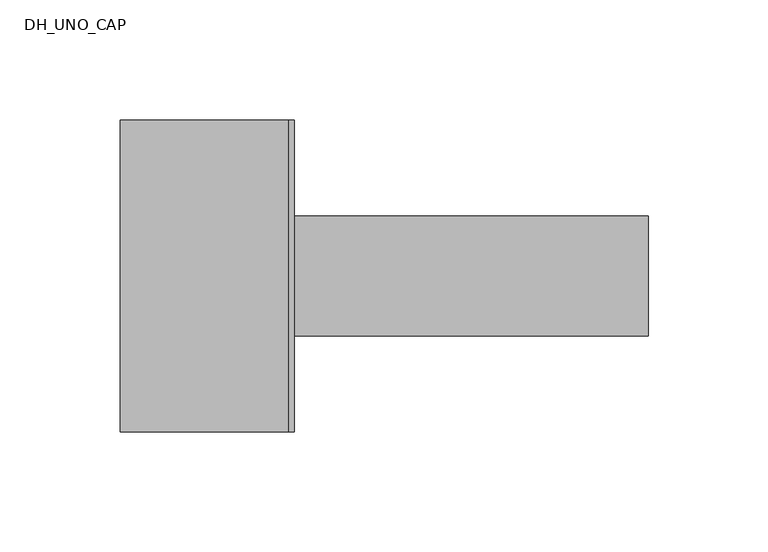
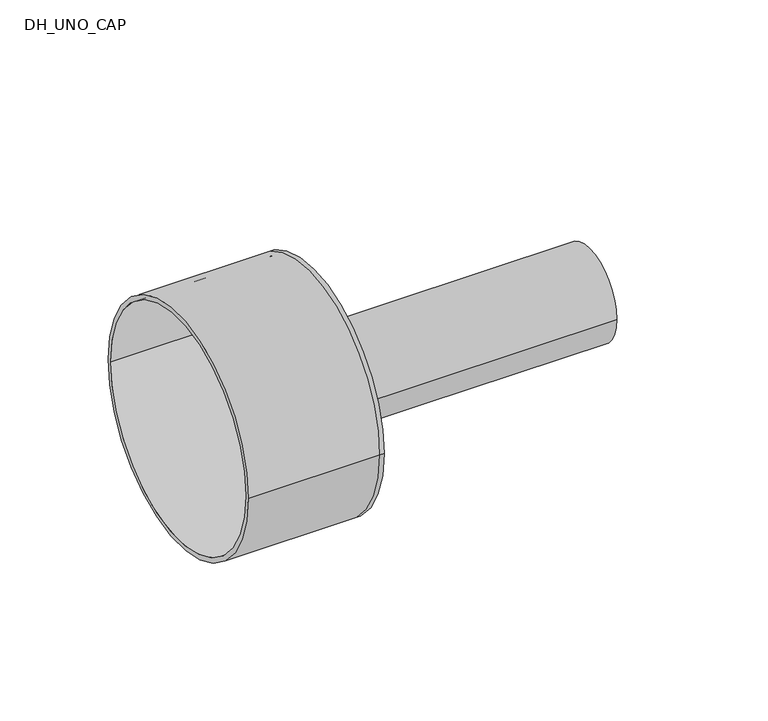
"""IFC4 building model written with IfcOpenShell, lengths in millimetres: pipe fitting geometry, DH_UNO_CAP : RAUVIPEX UNO 11 Heating - Solid Cap."""

import ifcopenshell
import ifcopenshell.guid

model = None  # the IFC model being written
_history = None  # IfcOwnerHistory: only IFC2X3 demands one
_inside = {}  # id of a spatial element -> (the spatial element, [elements in it])
_under = {}  # id of a project, library or spatial element -> (it, [spatial elements below it])
_declared = {}  # id of a project -> (the project, [libraries it declares])
_typed = {}  # id of a type object -> (the type object, [elements of that type])
_made_of = {}  # id of a material, layer set ... -> (it, [elements and type objects made of it])


def new_model(schema):
    """Start an empty IFC model of exactly this schema.

    Asked for "IFC4X3", IfcOpenShell would pick the latest addendum, in which some entities
    have other attributes; the version numbers below select the first issue.
    IFC2X3 requires an IfcOwnerHistory on every rooted entity: one is made here for all.
    """
    global model, _history
    if schema == "IFC4X3":
        model = ifcopenshell.file(schema_version=(4, 3, 0, 0))
    else:
        model = ifcopenshell.file(schema=schema)
    _inside.clear()
    _under.clear()
    _declared.clear()
    _typed.clear()
    _made_of.clear()
    _history = None
    if model.schema == "IFC2X3":
        org = make("IfcOrganization", Name="unknown")
        user = make(
            "IfcPersonAndOrganization",
            ThePerson=make("IfcPerson", FamilyName="unknown"),
            TheOrganization=org,
        )
        app = make(
            "IfcApplication",
            ApplicationDeveloper=org,
            Version="unknown",
            ApplicationFullName="unknown",
            ApplicationIdentifier="unknown",
        )
        _history = make(
            "IfcOwnerHistory",
            OwningUser=user,
            OwningApplication=app,
            ChangeAction="ADDED",
            CreationDate=0,
        )
    return model


def make(cls, **values):
    """One entity of the class cls with the attributes given. An attribute that is None is left unset."""
    return model.create_entity(
        cls, **{name: value for name, value in values.items() if value is not None}
    )


def rooted(cls, **values):
    """An entity with a GlobalId (a new one), such as an element, a storey or a relation."""
    return make(cls, GlobalId=ifcopenshell.guid.new(), OwnerHistory=_history, **values)


def si_unit(unit_type, name, prefix=None):
    """IfcSIUnit, for example si_unit("LENGTHUNIT", "METRE", prefix="MILLI")."""
    return make("IfcSIUnit", UnitType=unit_type, Prefix=prefix, Name=name)


def assignment(units):
    """IfcUnitAssignment: the units of a project."""
    return None if units is None else make("IfcUnitAssignment", Units=units)


def point(xyz):
    """IfcCartesianPoint."""
    return None if xyz is None else make("IfcCartesianPoint", Coordinates=xyz)


def direction(xyz):
    """IfcDirection."""
    return None if xyz is None else make("IfcDirection", DirectionRatios=xyz)


def frame(location, z_axis=None, x_axis=None):
    """IfcAxis2Placement3D, a coordinate frame: its origin and axes. An axis left out is left unset."""
    return make(
        "IfcAxis2Placement3D",
        Location=point(location),
        Axis=direction(z_axis),
        RefDirection=direction(x_axis),
    )


def frame_2d(location, x_axis=None):
    """IfcAxis2Placement2D, a coordinate frame in the plane: its origin and x axis."""
    return make(
        "IfcAxis2Placement2D", Location=point(location), RefDirection=direction(x_axis)
    )


def origin():
    """The frame at (0, 0, 0) with its axes left unset."""
    return frame((0.0, 0.0, 0.0))


def origin_2d():
    """The frame at (0, 0) in the plane with its x axis left unset."""
    return frame_2d((0.0, 0.0))


def place(relative_to, where):
    """IfcLocalPlacement: puts the frame where relative to a parent placement (None: the world)."""
    return make(
        "IfcLocalPlacement", PlacementRelTo=relative_to, RelativePlacement=where
    )


def context(
    kind, dimensions, precision=None, world=None, true_north=None, identifier=None
):
    """IfcGeometricRepresentationContext, for example the 3D "Model" context."""
    return make(
        "IfcGeometricRepresentationContext",
        ContextIdentifier=identifier,
        ContextType=kind,
        CoordinateSpaceDimension=dimensions,
        Precision=precision,
        WorldCoordinateSystem=world,
        TrueNorth=true_north,
    )


def project(units=None, contexts=None):
    """IfcProject with its units and contexts."""
    return rooted(
        "IfcProject",
        Name="project",
        RepresentationContexts=contexts,
        UnitsInContext=assignment(units),
    )


def spatial(cls, under=None, at=None, **own):
    """A site, building, storey or space (cls), placed at a placement, below another one or the project."""
    s = rooted(cls, ObjectPlacement=at, **own)
    if under is not None:
        _under.setdefault(under.id(), (under, []))[1].append(s)
    return s


def polyline(points):
    """IfcPolyline through the points."""
    return make("IfcPolyline", Points=[point(p) for p in points])


def circle_curve(where, radius):
    """IfcCircle in the frame where."""
    return make("IfcCircle", Position=where, Radius=radius)


def trimmed(basis, trim1, trim2, sense, master):
    """IfcTrimmedCurve: the piece of a basis curve between two trims."""
    return make(
        "IfcTrimmedCurve",
        BasisCurve=basis,
        Trim1=trim1,
        Trim2=trim2,
        SenseAgreement=sense,
        MasterRepresentation=master,
    )


def segment(curve, same_sense, transition):
    """IfcCompositeCurveSegment."""
    return make(
        "IfcCompositeCurveSegment",
        Transition=transition,
        SameSense=same_sense,
        ParentCurve=curve,
    )


def composite_curve(segments, self_intersect=None):
    """IfcCompositeCurve: segments joined end to end."""
    return make("IfcCompositeCurve", Segments=segments, SelfIntersect=self_intersect)


def outline(outer, holes=None, kind="AREA"):
    """IfcArbitraryClosedProfileDef: a profile drawn as a closed curve; with holes, ...WithVoids."""
    if holes is None:
        return make("IfcArbitraryClosedProfileDef", ProfileType=kind, OuterCurve=outer)
    return make(
        "IfcArbitraryProfileDefWithVoids",
        ProfileType=kind,
        OuterCurve=outer,
        InnerCurves=holes,
    )


def extrude(swept, where, along, depth):
    """IfcExtrudedAreaSolid: the profile swept, set in the frame where, extruded along a direction by depth."""
    return make(
        "IfcExtrudedAreaSolid",
        SweptArea=swept,
        Position=where,
        ExtrudedDirection=direction(along),
        Depth=depth,
    )


def shape(context_of_items, identifier, shape_type, items):
    """IfcShapeRepresentation: the items that make up one representation, for example the "Body"."""
    return make(
        "IfcShapeRepresentation",
        ContextOfItems=context_of_items,
        RepresentationIdentifier=identifier,
        RepresentationType=shape_type,
        Items=items,
    )


def source(mapping_origin, context_of_items, identifier, shape_type, items):
    """IfcRepresentationMap: a shape defined once, which mapped items show again and again."""
    return make(
        "IfcRepresentationMap",
        MappingOrigin=mapping_origin,
        MappedRepresentation=shape(context_of_items, identifier, shape_type, items),
    )


def transform(
    local_origin,
    x_axis=None,
    y_axis=None,
    z_axis=None,
    scale=None,
    scale2=None,
    scale3=None,
    uniform=True,
):
    """IfcCartesianTransformationOperator3D, or its non-uniform kind. x_axis, y_axis, z_axis: its Axis1, 2, 3."""
    if uniform:
        return make(
            "IfcCartesianTransformationOperator3D",
            Axis1=direction(x_axis),
            Axis2=direction(y_axis),
            LocalOrigin=point(local_origin),
            Scale=scale,
            Axis3=direction(z_axis),
        )
    return make(
        "IfcCartesianTransformationOperator3DnonUniform",
        Axis1=direction(x_axis),
        Axis2=direction(y_axis),
        LocalOrigin=point(local_origin),
        Scale=scale,
        Axis3=direction(z_axis),
        Scale2=scale2,
        Scale3=scale3,
    )


def mapped(mapping_source, mapping_target):
    """IfcMappedItem: shows the shape of a source again, moved by a transform."""
    return make(
        "IfcMappedItem", MappingSource=mapping_source, MappingTarget=mapping_target
    )


def made_of(thing, what):
    """Note that an element or type object is made of a material, layer set ...; save() writes the relation."""
    if what is not None:
        _made_of.setdefault(what.id(), (what, []))[1].append(thing)
    return thing


def element(
    cls,
    number,
    at=None,
    inside=None,
    cuts=None,
    type_object=None,
    material=None,
    context=None,
    identifier="Body",
    shape_type=None,
    held_by="IfcProductDefinitionShape",
    body=None,
    shapes=None,
    **own,
):
    """One element of the class cls, such as IfcWall. Its Tag is "e" and its number.

    at: its placement. inside: the storey or other place that contains it. cuts: it is an
    opening in that element (IfcRelVoidsElement). A single representation is given by context,
    identifier, shape_type and body (its items); several are given by shapes. held_by: the class
    of the entity that holds the representations. save() writes the other relations.
    """
    e = rooted(cls, Tag="e%d" % number, ObjectPlacement=at, **own)
    if body is not None:
        shapes = [shape(context, identifier, shape_type, body)]
    if shapes is not None:
        e.Representation = make(held_by, Representations=shapes)
    if inside is not None:
        _inside.setdefault(inside.id(), (inside, []))[1].append(e)
    if cuts is not None:
        rooted(
            "IfcRelVoidsElement", RelatingBuildingElement=cuts, RelatedOpeningElement=e
        )
    if type_object is not None:
        _typed.setdefault(type_object.id(), (type_object, []))[1].append(e)
    return made_of(e, material)


def aggregate(whole, parts):
    """IfcRelAggregates: a whole, such as a stair, and the parts it consists of."""
    return rooted("IfcRelAggregates", RelatingObject=whole, RelatedObjects=parts)


def save(model, path):
    """Write the relations noted so far, then the file.

    IfcRelAggregates (storeys below a building ...), IfcRelContainedInSpatialStructure (elements
    in a storey), IfcRelDefinesByType, IfcRelAssociatesMaterial and IfcRelDeclares: one each for
    every whole, place, type object, material and project.
    """
    for whole, parts in _under.values():
        aggregate(whole, parts)
    for where, things in _inside.values():
        rooted(
            "IfcRelContainedInSpatialStructure",
            RelatedElements=things,
            RelatingStructure=where,
        )
    for kind, things in _typed.values():
        rooted("IfcRelDefinesByType", RelatedObjects=things, RelatingType=kind)
    for what, things in _made_of.values():
        rooted("IfcRelAssociatesMaterial", RelatedObjects=things, RelatingMaterial=what)
    for by, libraries in _declared.values():
        rooted("IfcRelDeclares", RelatingContext=by, RelatedDefinitions=libraries)
    model.write(path)


def plane_surface(at):
    """IfcPlane: the flat surface through the origin of the frame at, square to its z axis."""
    return make("IfcPlane", Position=at)


def cylinder_surface(at, radius):
    """IfcCylindricalSurface: all points at the distance radius from the z axis of the frame at."""
    return make("IfcCylindricalSurface", Position=at, Radius=radius)


def revolved_surface(curve, axis_point, axis_direction):
    """IfcSurfaceOfRevolution: the curve turned about the line through axis_point along axis_direction."""
    return make(
        "IfcSurfaceOfRevolution",
        SweptCurve=make("IfcArbitraryOpenProfileDef", ProfileType="CURVE", Curve=curve),
        AxisPosition=make("IfcAxis1Placement", Location=point(axis_point), Axis=direction(axis_direction)),
    )


def advanced_brep(points, edges, surfaces, faces):
    """IfcAdvancedBrep: a solid bounded by faces that lie on surfaces and meet in shared edges.

    An edge is (start, end): straight between two places in points (the first is 0);
    or (start, end, curve); or (start, end, curve, False) where it runs against its curve.
    A face is (place in surfaces, loops), or (place, loops, False) where it looks against
    its surface's normal. A loop lists edges by number (the first is 1), with a minus sign
    where the edge is run from its end to its start. The first loop is the outer one.
    """
    corners = [point(p) for p in points]
    vertices = [make("IfcVertexPoint", VertexGeometry=c) for c in corners]
    made = []
    for start, end, *more in edges:
        made.append(
            make(
                "IfcEdgeCurve",
                EdgeStart=vertices[start],
                EdgeEnd=vertices[end],
                EdgeGeometry=more[0] if more else make("IfcPolyline", Points=[corners[start], corners[end]]),
                SameSense=more[1] if len(more) > 1 else True,
            )
        )
    hull = []
    for where, loops, *sense in faces:
        bounds = []
        for j, loop in enumerate(loops):
            ring = [make("IfcOrientedEdge", EdgeElement=made[abs(k) - 1], Orientation=k > 0) for k in loop]
            bounds.append(
                make(
                    "IfcFaceOuterBound" if j == 0 else "IfcFaceBound",
                    Bound=make("IfcEdgeLoop", EdgeList=ring),
                    Orientation=True,
                )
            )
        hull.append(make("IfcAdvancedFace", Bounds=bounds, FaceSurface=surfaces[where], SameSense=sense[0] if sense else True))
    return make("IfcAdvancedBrep", Outer=make("IfcClosedShell", CfsFaces=hull))


def dh_uno_cap_38107208(model_context):
    return source(origin(), model_context, "Body", "SolidModel", [
        extrude(outline(composite_curve([segment(trimmed(circle_curve(origin_2d(), 25.0), [point((-25.0, 0.0))], [point((25.0, 0.0))], False, "CARTESIAN"), True, "CONTINUOUS"), segment(trimmed(circle_curve(origin_2d(), 25.0), [point((25.0, 0.0))], [point((-25.0, 0.0))], False, "CARTESIAN"), True, "CONTINUOUS")], self_intersect=False), holes=[composite_curve([segment(trimmed(circle_curve(origin_2d(), 20.4), [point((-20.4, 0.0))], [point((20.4, 0.0))], True, "CARTESIAN"), True, "CONTINUOUS"), segment(trimmed(circle_curve(origin_2d(), 20.4), [point((20.4, 0.0))], [point((-20.4, 0.0))], True, "CARTESIAN"), True, "CONTINUOUS")], self_intersect=False)]), frame((0.0, 0.0, 0.0), z_axis=(1.0, 0.0, 0.0), x_axis=(0.0, 1.0, 0.0)), (0.0, 0.0, 1.0), 150.0),
        advanced_brep(
        [(-70.0, -65.0, 0.0), (-70.0, 65.0, 0.0), (-70.0, -62.5, 0.0), (-70.0, 62.5, 0.0), (0.0, -62.5, 0.0), (0.0, 62.5, 0.0), (0.0, -65.0, 0.0), (0.0, 65.0, 0.0), (0.0, 25.0, 0.0), (0.0, -25.0, 0.0), (2.5, -65.0, 0.0), (2.5, 65.0, 0.0), (2.5, -25.0, 0.0), (2.5, 25.0, 0.0)],
        [
            (0, 1, circle_curve(frame((-70.0, 0.0, 0.0), z_axis=(-1.0, 0.0, 0.0), x_axis=(0.0, 1.0, 0.0)), 65.0)),
            (1, 0, circle_curve(frame((-70.0, 0.0, 0.0), z_axis=(-1.0, 0.0, 0.0), x_axis=(0.0, 1.0, 0.0)), 65.0)),
            (2, 3, circle_curve(frame((-70.0, 0.0, 0.0), z_axis=(1.0, 0.0, 0.0), x_axis=(0.0, 1.0, 0.0)), 62.5)),
            (3, 2, circle_curve(frame((-70.0, 0.0, 0.0), z_axis=(1.0, 0.0, 0.0), x_axis=(0.0, 1.0, 0.0)), 62.5)),
            (2, 4),
            (4, 5, circle_curve(frame((0.0, 0.0, 0.0), z_axis=(1.0, 0.0, 0.0), x_axis=(0.0, 1.0, 0.0)), 62.5)),
            (5, 3),
            (5, 4, circle_curve(frame((0.0, 0.0, 0.0), z_axis=(1.0, 0.0, 0.0), x_axis=(0.0, 1.0, 0.0)), 62.5)),
            (0, 6),
            (6, 7, circle_curve(frame((0.0, 0.0, 0.0), z_axis=(-1.0, 0.0, 0.0), x_axis=(0.0, 1.0, 0.0)), 65.0)),
            (7, 1),
            (7, 6, circle_curve(frame((0.0, 0.0, 0.0), z_axis=(-1.0, 0.0, 0.0), x_axis=(0.0, 1.0, 0.0)), 65.0)),
            (8, 9, circle_curve(frame((0.0, 0.0, 0.0), z_axis=(1.0, 0.0, 0.0), x_axis=(0.0, 1.0, 0.0)), 25.0)),
            (9, 8, circle_curve(frame((0.0, 0.0, 0.0), z_axis=(1.0, 0.0, 0.0), x_axis=(0.0, 1.0, 0.0)), 25.0)),
            (10, 11, circle_curve(frame((2.5, 0.0, 0.0), z_axis=(1.0, 0.0, 0.0), x_axis=(0.0, 1.0, 0.0)), 65.0)),
            (11, 10, circle_curve(frame((2.5, 0.0, 0.0), z_axis=(1.0, 0.0, 0.0), x_axis=(0.0, 1.0, 0.0)), 65.0)),
            (12, 13, circle_curve(frame((2.5, 0.0, 0.0), z_axis=(-1.0, 0.0, 0.0), x_axis=(0.0, 1.0, 0.0)), 25.0)),
            (13, 12, circle_curve(frame((2.5, 0.0, 0.0), z_axis=(-1.0, 0.0, 0.0), x_axis=(0.0, 1.0, 0.0)), 25.0)),
            (11, 7),
            (6, 10),
            (8, 13),
            (12, 9),
        ],
        [
            plane_surface(frame((-70.0, 0.0, 0.0), z_axis=(-1.0, 0.0, 0.0), x_axis=(0.0, 0.0, 1.0))),
            revolved_surface(polyline([(0.0, 62.5, 0.0), (-70.0, 62.5, 0.0)]), (-70.0, 0.0, 0.0), (1.0, 0.0, 0.0)),
            cylinder_surface(frame((-70.0, 0.0, 0.0), z_axis=(-1.0, 0.0, 0.0), x_axis=(0.0, 1.0, 0.0)), 65.0),
            plane_surface(frame((0.0, 0.0, 0.0), z_axis=(-1.0, 0.0, 0.0), x_axis=(0.0, 0.0, 1.0))),
            plane_surface(frame((2.5, 0.0, 0.0), z_axis=(1.0, 0.0, 0.0), x_axis=(0.0, 0.0, 1.0))),
            cylinder_surface(frame((0.0, 0.0, 0.0), z_axis=(-1.0, 0.0, 0.0), x_axis=(0.0, 1.0, 0.0)), 65.0),
            revolved_surface(polyline([(0.0, 25.0, 0.0), (2.5, 25.0, 0.0)]), (0.0, 0.0, 0.0), (-1.0, 0.0, 0.0)),
        ],
        [
            (0, [[1, 2], [3, 4]]),
            (1, [[-3, 5, 6, 7]]),
            (1, [[-4, -7, 8, -5]]),
            (2, [[-1, 9, 10, 11]]),
            (2, [[-2, -11, 12, -9]]),
            (3, [[-6, -8], [13, 14]]),
            (4, [[15, 16], [17, 18]]),
            (5, [[-16, 19, -10, 20]]),
            (5, [[-15, -20, -12, -19]]),
            (6, [[21, -17, 22, -13]]),
            (6, [[-21, -14, -22, -18]]),
        ],
    ),
    ])


if __name__ == "__main__":
    model = new_model("IFC4")
    model_context = context("Model", 3, world=origin())
    ifc_project = project(units=[si_unit("LENGTHUNIT", "METRE", prefix="MILLI")], contexts=[model_context])
    site = spatial("IfcSite", under=ifc_project)
    building = spatial("IfcBuilding", under=site)
    placement = place(None, origin())
    dh_uno_cap_shape = dh_uno_cap_38107208(model_context)
    element("IfcPipeFitting", 1, ObjectType="DH_UNO_CAP : RAUVIPEX UNO 11 Heating - Solid Cap", at=placement, inside=building, context=model_context, shape_type="MappedRepresentation", body=[
        mapped(dh_uno_cap_shape, transform((0.0, 0.0, 0.0), x_axis=(1.0, 0.0, 0.0), y_axis=(0.0, 1.0, 0.0), z_axis=(0.0, 0.0, 1.0))),
    ])
    save(model, "model.ifc")
